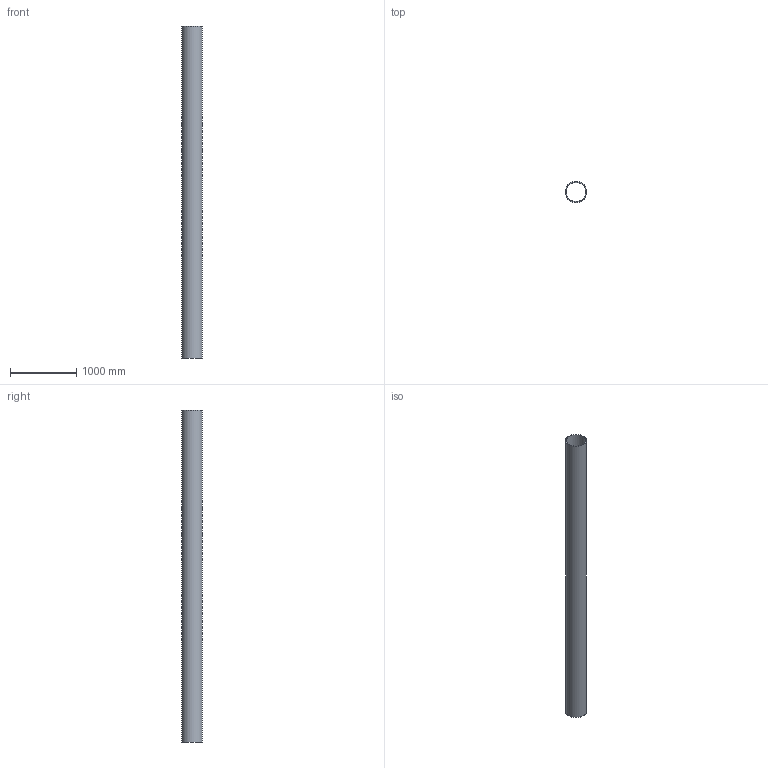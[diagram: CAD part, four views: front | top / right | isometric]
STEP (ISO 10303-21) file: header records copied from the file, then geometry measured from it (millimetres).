
FILE_DESCRIPTION(/* description */ (''),/* implementation_level */ '2;1');
FILE_NAME(/* name */ 'C:\Geberit-Teile\Export 2019\379.000.16.0\stp\372000.stp',/* time_stamp */ '2019-06-06T10:49:00+02:00',/* author */ ('JANAN'),/* organization */ (''),/* preprocessor_version */ 'ST-DEVELOPER v16.13',/* originating_system */ 'Autodesk Inventor 2018',/* authorisation */ '');
FILE_SCHEMA (('AUTOMOTIVE_DESIGN { 1 0 10303 214 3 1 1 }'));
Length unit declared in the file: millimetre
Products named in the file (1): Rohr PE-HD d315x9.8 L5000
Bounding box: 315 x 315 x 5000 mm (x, y, z)
Volume: 46981889.8 mm3; surface area: 9606933.5 mm2
Topology: 1 solids, 1 shells, 4 faces, 6 edges, 4 vertices
Faces by surface type: cylinder 2, plane 2
Full cylindrical faces by diameter (mm): 295.4 x1, 315 x1
Entity records: 131 total; most frequent: DIRECTION 18, CARTESIAN_POINT 13, AXIS2_PLACEMENT_3D 9, EDGE_LOOP 8, ORIENTED_EDGE 8, STYLED_ITEM 5, FACE_BOUND 4, FACE_OUTER_BOUND 4
